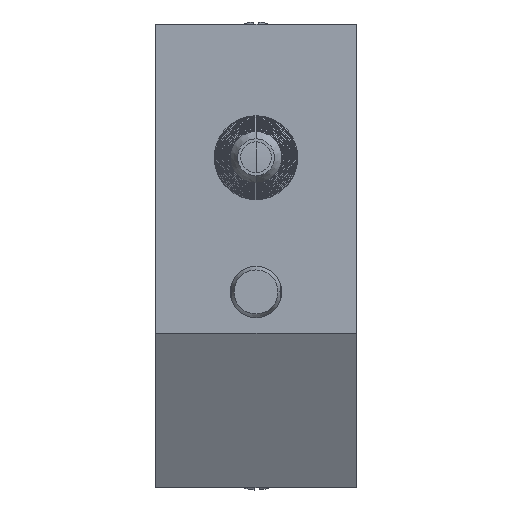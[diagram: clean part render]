
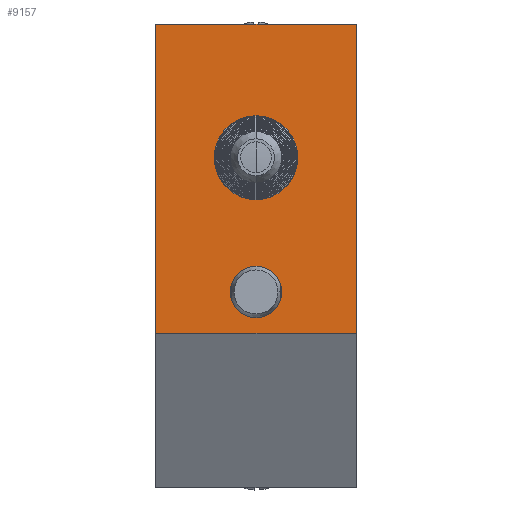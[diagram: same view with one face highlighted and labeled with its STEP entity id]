
A CAD part, top view. The second image highlights one B-rep face of the part: STEP entity #9157.
In plain terms, the highlighted planar face has unit normal (0, 0, 1).
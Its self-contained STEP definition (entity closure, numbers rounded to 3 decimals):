
#264 = ORIENTED_EDGE ( 'NONE', *, *, #9873, .T. ) ;
#352 = CARTESIAN_POINT ( 'NONE',  ( 51.342, 58.647, 32.236 ) ) ;
#1261 = EDGE_LOOP ( 'NONE', ( #16370, #5414 ) ) ;
#1348 = DIRECTION ( 'NONE',  ( 0., 0., -1. ) ) ;
#1770 = VECTOR ( 'NONE', #5082, 1000. ) ;
#3926 = ORIENTED_EDGE ( 'NONE', *, *, #46729, .T. ) ;
#5082 = DIRECTION ( 'NONE',  ( 0., 1., 0. ) ) ;
#5414 = ORIENTED_EDGE ( 'NONE', *, *, #24004, .T. ) ;
#8150 = VERTEX_POINT ( 'NONE', #43861 ) ;
#8375 = ORIENTED_EDGE ( 'NONE', *, *, #48476, .F. ) ;
#8876 = LINE ( 'NONE', #30976, #30677 ) ;
#9157 = ADVANCED_FACE ( 'NONE', ( #22967, #12204, #58684 ), #46318, .F. ) ;
#9539 = CARTESIAN_POINT ( 'NONE',  ( 41.592, 32.647, 32.236 ) ) ;
#9873 = EDGE_CURVE ( 'NONE', #34313, #29905, #39736, .T. ) ;
#10392 = DIRECTION ( 'NONE',  ( 0., 0., -1. ) ) ;
#12204 = FACE_BOUND ( 'NONE', #1261, .T. ) ;
#12541 = DIRECTION ( 'NONE',  ( 1., 0., 0. ) ) ;
#13802 = VERTEX_POINT ( 'NONE', #58149 ) ;
#13914 = CARTESIAN_POINT ( 'NONE',  ( 51.342, 58.647, 32.236 ) ) ;
#14213 = DIRECTION ( 'NONE',  ( -1., 0., 0. ) ) ;
#14897 = CARTESIAN_POINT ( 'NONE',  ( 31.842, 28.647, 32.236 ) ) ;
#15319 = CARTESIAN_POINT ( 'NONE',  ( 31.842, 28.647, 32.236 ) ) ;
#16370 = ORIENTED_EDGE ( 'NONE', *, *, #24029, .T. ) ;
#18595 = CARTESIAN_POINT ( 'NONE',  ( 31.842, 58.647, 32.236 ) ) ;
#18953 = EDGE_LOOP ( 'NONE', ( #56317, #8375, #23547, #264 ) ) ;
#19971 = DIRECTION ( 'NONE',  ( 1., 0., 0. ) ) ;
#19984 = AXIS2_PLACEMENT_3D ( 'NONE', #38201, #10392, #42918 ) ;
#20448 = CARTESIAN_POINT ( 'NONE',  ( 51.342, 28.647, 32.236 ) ) ;
#20892 = EDGE_CURVE ( 'NONE', #34313, #8150, #26661, .T. ) ;
#20991 = CIRCLE ( 'NONE', #54318, 2.5 ) ;
#22233 = CARTESIAN_POINT ( 'NONE',  ( 31.842, 58.647, 32.236 ) ) ;
#22527 = DIRECTION ( 'NONE',  ( 0., 0., -1. ) ) ;
#22967 = FACE_BOUND ( 'NONE', #56233, .T. ) ;
#23224 = DIRECTION ( 'NONE',  ( 0., -1., 0. ) ) ;
#23547 = ORIENTED_EDGE ( 'NONE', *, *, #20892, .F. ) ;
#24004 = EDGE_CURVE ( 'NONE', #27538, #31264, #40100, .T. ) ;
#24029 = EDGE_CURVE ( 'NONE', #31264, #27538, #34220, .T. ) ;
#26310 = AXIS2_PLACEMENT_3D ( 'NONE', #18595, #51175, #23224 ) ;
#26661 = LINE ( 'NONE', #22233, #39094 ) ;
#27538 = VERTEX_POINT ( 'NONE', #54351 ) ;
#29209 = CARTESIAN_POINT ( 'NONE',  ( 41.592, 45.647, 32.236 ) ) ;
#29905 = VERTEX_POINT ( 'NONE', #20448 ) ;
#30677 = VECTOR ( 'NONE', #12541, 1000. ) ;
#30976 = CARTESIAN_POINT ( 'NONE',  ( 31.842, 58.647, 32.236 ) ) ;
#31264 = VERTEX_POINT ( 'NONE', #40854 ) ;
#33912 = DIRECTION ( 'NONE',  ( -1., 0., 0. ) ) ;
#34220 = CIRCLE ( 'NONE', #41792, 4. ) ;
#34313 = VERTEX_POINT ( 'NONE', #14897 ) ;
#36445 = AXIS2_PLACEMENT_3D ( 'NONE', #9539, #42050, #14213 ) ;
#38201 = CARTESIAN_POINT ( 'NONE',  ( 41.592, 45.647, 32.236 ) ) ;
#38229 = VECTOR ( 'NONE', #19971, 1000. ) ;
#38958 = LINE ( 'NONE', #352, #1770 ) ;
#39094 = VECTOR ( 'NONE', #50164, 1000. ) ;
#39736 = LINE ( 'NONE', #15319, #38229 ) ;
#40100 = CIRCLE ( 'NONE', #19984, 4. ) ;
#40854 = CARTESIAN_POINT ( 'NONE',  ( 37.592, 45.647, 32.236 ) ) ;
#41307 = CARTESIAN_POINT ( 'NONE',  ( 44.092, 32.647, 32.236 ) ) ;
#41792 = AXIS2_PLACEMENT_3D ( 'NONE', #29209, #1348, #33912 ) ;
#42050 = DIRECTION ( 'NONE',  ( 0., 0., -1. ) ) ;
#42138 = VERTEX_POINT ( 'NONE', #41307 ) ;
#42918 = DIRECTION ( 'NONE',  ( -1., 0., 0. ) ) ;
#43861 = CARTESIAN_POINT ( 'NONE',  ( 31.842, 58.647, 32.236 ) ) ;
#45088 = EDGE_CURVE ( 'NONE', #29905, #53187, #38958, .T. ) ;
#46318 = PLANE ( 'NONE',  #26310 ) ;
#46729 = EDGE_CURVE ( 'NONE', #42138, #13802, #57144, .T. ) ;
#48476 = EDGE_CURVE ( 'NONE', #8150, #53187, #8876, .T. ) ;
#50164 = DIRECTION ( 'NONE',  ( 0., 1., 0. ) ) ;
#50207 = EDGE_CURVE ( 'NONE', #13802, #42138, #20991, .T. ) ;
#50446 = CARTESIAN_POINT ( 'NONE',  ( 41.592, 32.647, 32.236 ) ) ;
#51175 = DIRECTION ( 'NONE',  ( 0., 0., -1. ) ) ;
#52013 = ORIENTED_EDGE ( 'NONE', *, *, #50207, .T. ) ;
#53187 = VERTEX_POINT ( 'NONE', #13914 ) ;
#54318 = AXIS2_PLACEMENT_3D ( 'NONE', #50446, #22527, #55099 ) ;
#54351 = CARTESIAN_POINT ( 'NONE',  ( 45.592, 45.647, 32.236 ) ) ;
#55099 = DIRECTION ( 'NONE',  ( -1., 0., 0. ) ) ;
#56233 = EDGE_LOOP ( 'NONE', ( #52013, #3926 ) ) ;
#56317 = ORIENTED_EDGE ( 'NONE', *, *, #45088, .T. ) ;
#57144 = CIRCLE ( 'NONE', #36445, 2.5 ) ;
#58149 = CARTESIAN_POINT ( 'NONE',  ( 39.092, 32.647, 32.236 ) ) ;
#58684 = FACE_OUTER_BOUND ( 'NONE', #18953, .T. ) ;
